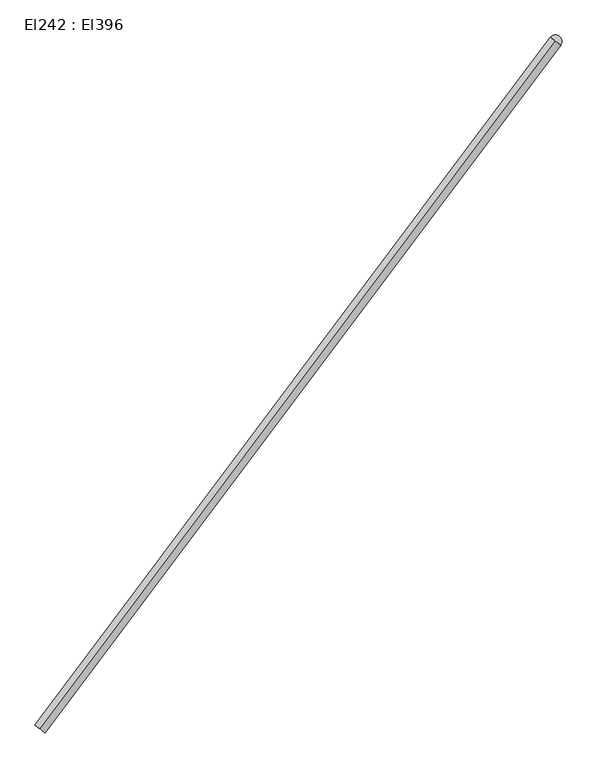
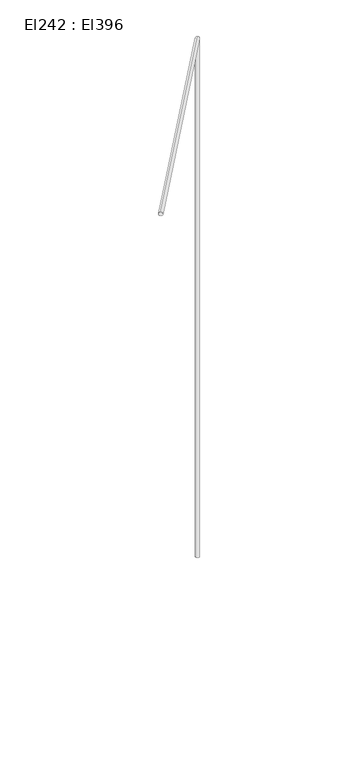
"""IFC4 building model written with IfcOpenShell, lengths in millimetres: cable carrier segment geometry, El242 : El396."""

from ifc_helpers import new_model, si_unit, point, frame, frame_2d, origin, place, context, project, spatial, circle_curve, trimmed, segment, composite_curve, outline, extrude, source, transform, mapped, element, save


def el242_el396_39261cf4(model_context):
    return source(origin(), model_context, "Body", "SweptSolid", [
        extrude(outline(composite_curve([segment(trimmed(circle_curve(frame_2d((0.0, -9.5)), 9.5), [point((0.0, -19.0))], [point((0.0, 0.0))], False, "CARTESIAN"), True, "CONTINUOUS"), segment(trimmed(circle_curve(frame_2d((0.0, -9.5)), 9.5), [point((0.0, 0.0))], [point((0.0, -19.0))], False, "CARTESIAN"), True, "CONTINUOUS")], self_intersect=False)), frame((1839.3596179, 20094.2105098, 4459.5), z_axis=(0.5997799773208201, 0.8001649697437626, 0.0), x_axis=(-0.8001649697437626, 0.5997799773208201, 0.0)), (0.0, 0.0, 1.0), 1276.99),
        extrude(outline(composite_curve([segment(trimmed(circle_curve(frame_2d((2605.2726511, 21116.0131745)), 9.5), [point((2595.7726511, 21116.0131745))], [point((2614.7726511, 21116.0131745))], False, "CARTESIAN"), True, "CONTINUOUS"), segment(trimmed(circle_curve(frame_2d((2605.2726511, 21116.0131745)), 9.5), [point((2614.7726511, 21116.0131745))], [point((2595.7726511, 21116.0131745))], False, "CARTESIAN"), True, "CONTINUOUS")], self_intersect=False)), frame((0.0, 0.0, 1830.0), z_axis=(0.0, 0.0, 1.0), x_axis=(1.0, 0.0, 0.0)), (0.0, 0.0, 1.0), 2620.0),
    ])


if __name__ == "__main__":
    model = new_model("IFC4")
    model_context = context("Model", 3, world=origin())
    ifc_project = project(units=[si_unit("LENGTHUNIT", "METRE", prefix="MILLI")], contexts=[model_context])
    site = spatial("IfcSite", under=ifc_project)
    building = spatial("IfcBuilding", under=site)
    placement = place(None, origin())
    el242_el396_shape = el242_el396_39261cf4(model_context)
    element("IfcCableCarrierSegment", 1, ObjectType="El242 : El396", at=placement, inside=building, context=model_context, shape_type="MappedRepresentation", body=[
        mapped(el242_el396_shape, transform((0.0, 0.0, 0.0), x_axis=(1.0, 0.0, 0.0), y_axis=(0.0, 1.0, 0.0), z_axis=(0.0, 0.0, 1.0))),
    ])
    save(model, "model.ifc")
